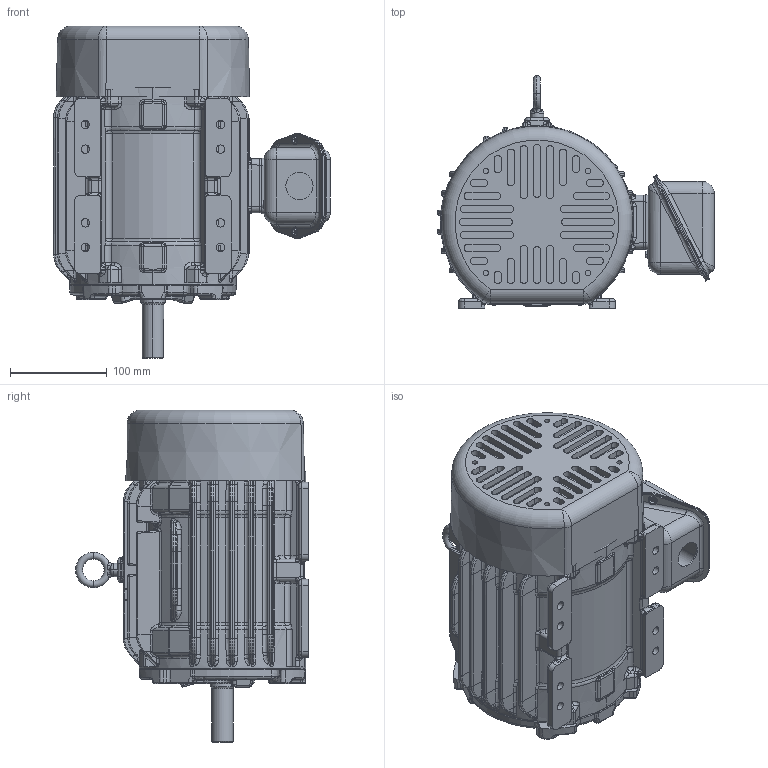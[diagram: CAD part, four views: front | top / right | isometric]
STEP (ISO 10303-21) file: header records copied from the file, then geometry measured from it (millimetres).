
FILE_DESCRIPTION((''),'2;1');
FILE_NAME('140_3D_ASM_ASM','2017-11-03T',('EMD2341'),('Nidec Motor Corporation'),'CREO PARAMETRIC BY PTC INC, 2017170','CREO PARAMETRIC BY PTC INC, 2017170','');
FILE_SCHEMA(('CONFIG_CONTROL_DESIGN'));
Length unit declared in the file: inch
Products named in the file (10): 140_FOOTED_FRAME; 140_DE_BRKT; 140_NON_FLNG; NEW313; 140_STL_FCVR; 140_STL_OBB_GSK; 140_STL_OBB; 140_STL_OBC_GSK; 140_STL_OBC; 140_3D_ASM_ASM
Assembly tree (9 placements, depth 2):
  140_3D_ASM_ASM
    140_FOOTED_FRAME
    140_DE_BRKT
    140_NON_FLNG
    NEW313
    140_STL_FCVR
    140_STL_OBB_GSK
    140_STL_OBB
    140_STL_OBC_GSK
    140_STL_OBC
Bounding box: 286.04 x 240.54 x 343.15 mm (x, y, z)
Volume: 7794399.2 mm3; surface area: 546037.2 mm2
Topology: 9 solids, 9 shells, 2649 faces, 6108 edges, 3508 vertices
Faces by surface type: bspline 1168, cylinder 671, plane 476, torus 163, extrusion 86, sphere 56, cone 29
Entity records: 123228 total; most frequent: CARTESIAN_POINT 70766, ORIENTED_EDGE 12200, DIRECTION 9039, EDGE_CURVE 6100, AXIS2_PLACEMENT_3D 3571, VERTEX_POINT 3508, EDGE_LOOP 2726, FACE_OUTER_BOUND 2649
